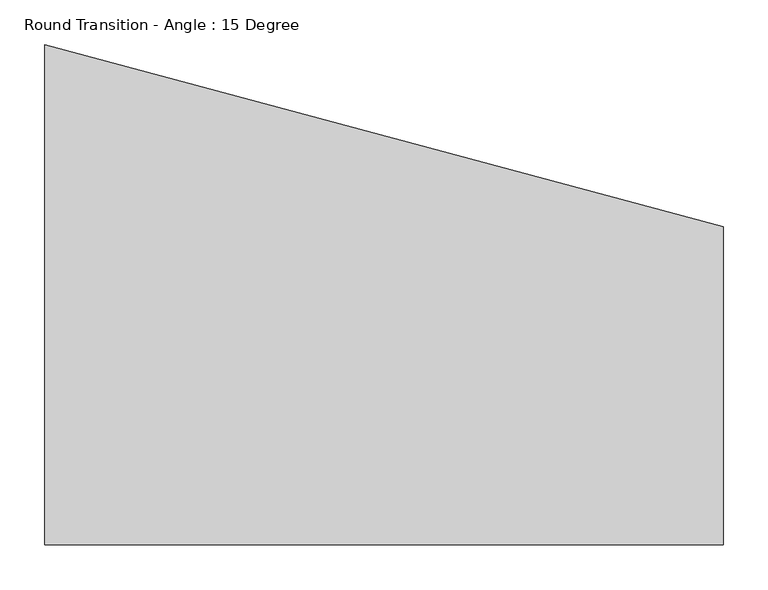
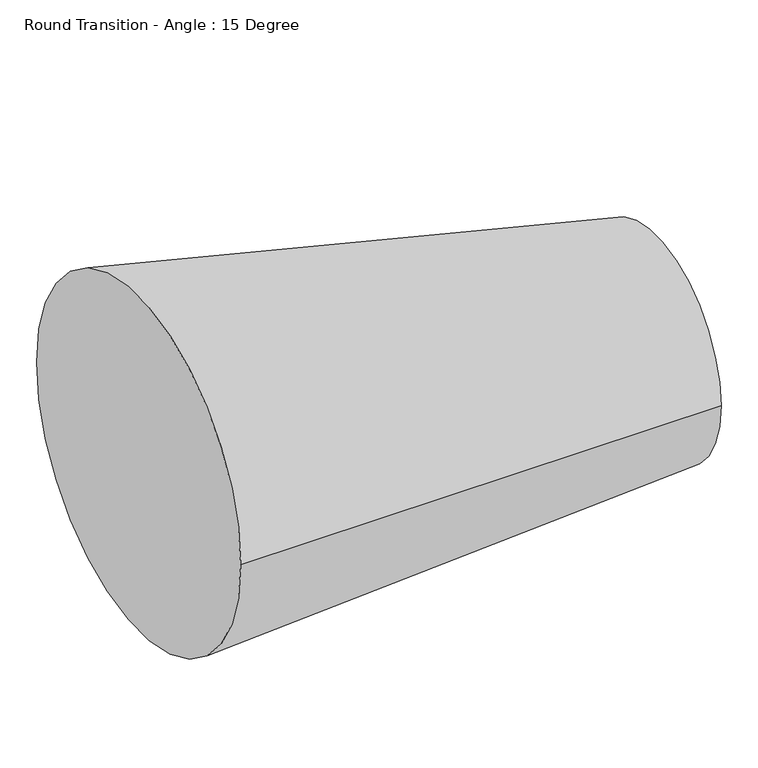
"""IFC4 building model written with IfcOpenShell, lengths in millimetres: duct fitting geometry, Round Transition - Angle : 15 Degree."""

from ifc_helpers import new_model, si_unit, frame, origin, place, context, project, spatial, circle_curve, source, transform, mapped, element, save
from ifc_brep_helpers import plane_surface, spline_surface, advanced_brep


def round_transition_angle_15_degree_ade4631c(model_context):
    return source(origin(), model_context, "Body", "AdvancedBrep", [
        advanced_brep(
        [(758.3527241, -279.4, 0.0), (758.3527241, 76.2, 0.0), (0.0, -279.4, 0.0), (0.0, 279.4, 0.0)],
        [
            (0, 1, circle_curve(frame((758.3527241, -101.6, 0.0), z_axis=(1.0, 0.0, 0.0), x_axis=(0.0, 1.0, 0.0)), 177.8)),
            (1, 0, circle_curve(frame((758.3527241, -101.6, 0.0), z_axis=(1.0, 0.0, 0.0), x_axis=(0.0, 1.0, 0.0)), 177.8)),
            (2, 3, circle_curve(frame((0.0, 0.0, 0.0), z_axis=(-1.0, 0.0, 0.0), x_axis=(0.0, 1.0, 0.0)), 279.4)),
            (3, 2, circle_curve(frame((0.0, 0.0, 0.0), z_axis=(-1.0, 0.0, 0.0), x_axis=(0.0, 1.0, 0.0)), 279.4)),
            (3, 1),
            (0, 2),
        ],
        [
            plane_surface(frame((758.3527241, -101.6, 0.0), z_axis=(1.0, 0.0, 0.0), x_axis=(0.0, 0.0, -1.0))),
            plane_surface(frame((0.0, 0.0, 0.0), z_axis=(-1.0, 0.0, 0.0), x_axis=(0.0, 0.0, -1.0))),
            spline_surface(2, 1, [[(0.0, -279.4, 0.0), (758.3527241, -279.4, 0.0)], [(0.0, -279.4, -279.4), (758.3527241, -279.4, -177.79999999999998)], [(0.0, 0.0, -279.4), (758.3527241, -101.6, -177.79999999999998)], [(0.0, 279.4, -279.4), (758.3527241, 76.19999999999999, -177.79999999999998)], [(0.0, 279.4, 0.0), (758.3527241, 76.2, 0.0)]], [3, 2, 3], [2, 2], [0.0, 1.0, 2.0], [0.0, 1.0], weights=[[1.0, 1.0], [0.7071067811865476, 0.7071067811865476], [1.0, 1.0], [0.7071067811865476, 0.7071067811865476], [1.0, 1.0]]),
            spline_surface(2, 1, [[(0.0, 279.4, 0.0), (758.3527241, 76.2, 0.0)], [(0.0, 279.4, 279.4), (758.3527241, 76.20000000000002, 177.8)], [(0.0, 0.0, 279.4), (758.3527241, -101.6, 177.8)], [(0.0, -279.4, 279.4), (758.3527241, -279.4, 177.8)], [(0.0, -279.4, 0.0), (758.3527241, -279.4, 0.0)]], [3, 2, 3], [2, 2], [0.0, 1.0, 2.0], [0.0, 1.0], weights=[[1.0, 1.0], [0.7071067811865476, 0.7071067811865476], [1.0, 1.0], [0.7071067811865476, 0.7071067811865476], [1.0, 1.0]]),
        ],
        [
            (0, [[1, 2]]),
            (1, [[3, 4]]),
            (2, [[-4, 5, -1, 6]]),
            (3, [[-3, -6, -2, -5]]),
        ],
    ),
    ])


if __name__ == "__main__":
    model = new_model("IFC4")
    model_context = context("Model", 3, world=origin())
    ifc_project = project(units=[si_unit("LENGTHUNIT", "METRE", prefix="MILLI")], contexts=[model_context])
    site = spatial("IfcSite", under=ifc_project)
    building = spatial("IfcBuilding", under=site)
    placement = place(None, origin())
    round_transition_angle_15_degree_shape = round_transition_angle_15_degree_ade4631c(model_context)
    element("IfcDuctFitting", 1, ObjectType="Round Transition - Angle : 15 Degree", at=placement, inside=building, context=model_context, shape_type="MappedRepresentation", body=[
        mapped(round_transition_angle_15_degree_shape, transform((0.0, 0.0, 0.0), x_axis=(1.0, 0.0, 0.0), y_axis=(0.0, 1.0, 0.0), z_axis=(0.0, 0.0, 1.0))),
    ])
    save(model, "model.ifc")
